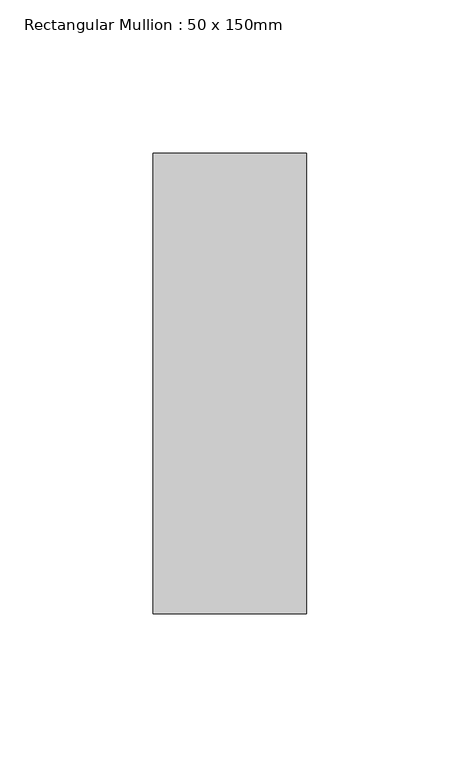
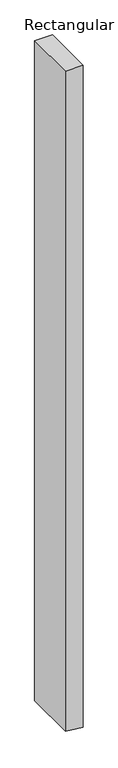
"""IFC4 building model written with IfcOpenShell, lengths in millimetres: member geometry, Rectangular Mullion : 50 x 150mm."""

from ifc_helpers import new_model, si_unit, frame, origin, place, context, project, spatial, polyline, outline, extrude, source, transform, mapped, element, save


def rectangular_mullion_50_x_150mm_71097db9(model_context):
    return source(origin(), model_context, "Body", "SweptSolid", [
        extrude(outline(polyline([(0.0, 25.0), (0.0, -25.0), (-1964.9942535, -25.0), (-1968.4744128, 5.6423937), (-1970.6729209, 25.0), (0.0, 25.0)])), frame((0.0, -75.0, 0.0), z_axis=(0.0, 1.0, 0.0), x_axis=(0.0, 0.0, 1.0)), (0.0, 0.0, 1.0), 150.0),
    ])


if __name__ == "__main__":
    model = new_model("IFC4")
    model_context = context("Model", 3, world=origin())
    ifc_project = project(units=[si_unit("LENGTHUNIT", "METRE", prefix="MILLI")], contexts=[model_context])
    site = spatial("IfcSite", under=ifc_project)
    building = spatial("IfcBuilding", under=site)
    placement = place(None, origin())
    rectangular_mullion_50_x_150mm_shape = rectangular_mullion_50_x_150mm_71097db9(model_context)
    element("IfcMember", 1, ObjectType="Rectangular Mullion : 50 x 150mm", at=placement, inside=building, context=model_context, shape_type="MappedRepresentation", body=[
        mapped(rectangular_mullion_50_x_150mm_shape, transform((0.0, 0.0, 0.0), x_axis=(1.0, 0.0, 0.0), y_axis=(0.0, 1.0, 0.0), z_axis=(0.0, 0.0, 1.0))),
    ])
    save(model, "model.ifc")
